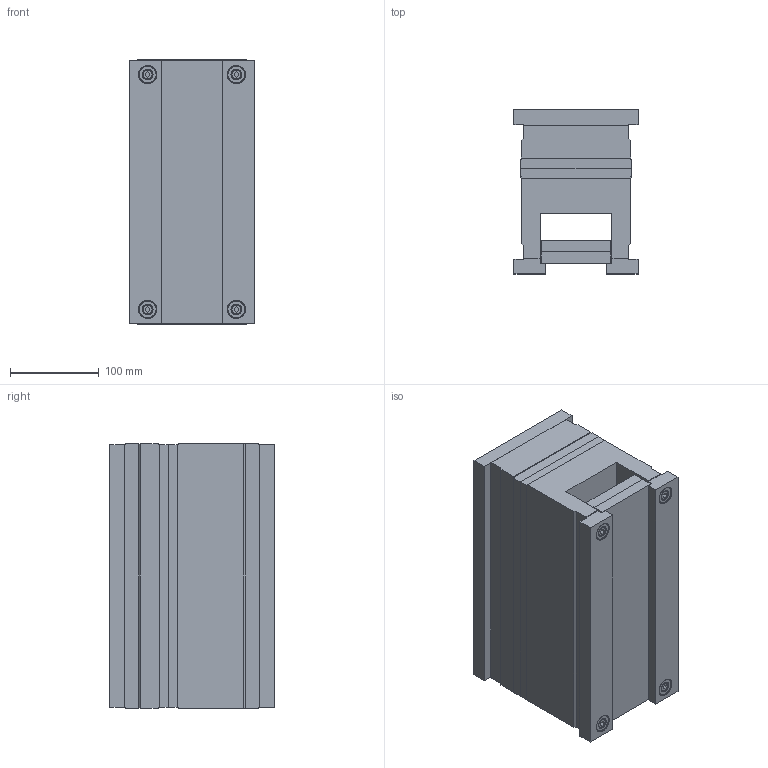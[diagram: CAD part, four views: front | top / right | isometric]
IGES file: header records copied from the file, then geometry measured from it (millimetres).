
Start section: SolidWorks IGES FILE using analytic representation for surfaces
Global section: file name: C:\Documents and Settings\K.P\My Documents\Mechanical\ALMO\CATL_EUR\RECT\1255.IGS; native system: SolidWorks 2001Plus by SolidWorks Corporation; preprocessor: Version 5.3; author: Pavel; date: 020709.091621; units: millimetre
Bounding box: 140 x 185.5 x 298 mm (x, y, z)
Surface area: 556996.9 mm2 (no closed solid volume)
Topology: 0 solids, 0 shells, 706 faces, 10312 edges, 10304 vertices
Faces by surface type: revolution 452, bspline 254
